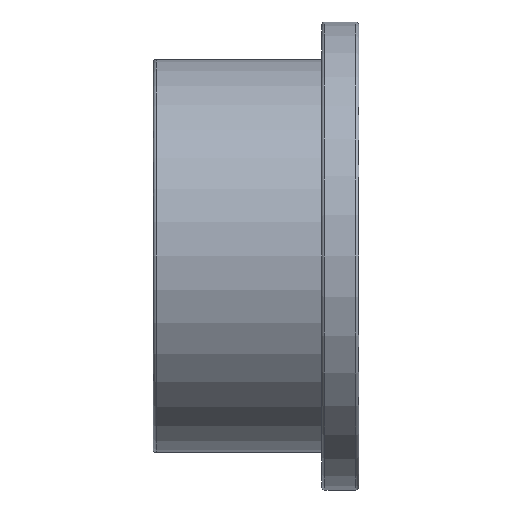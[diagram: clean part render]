
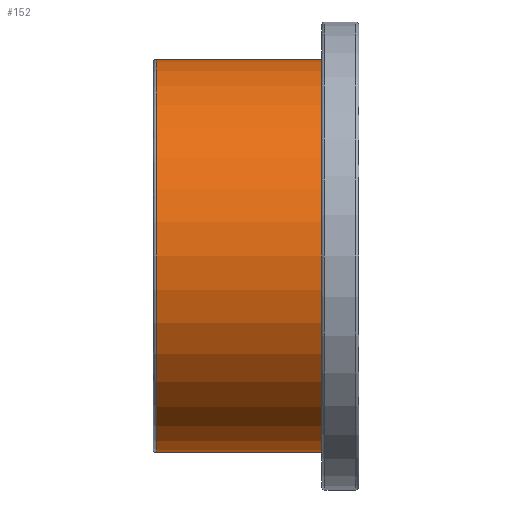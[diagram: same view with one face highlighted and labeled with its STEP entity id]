
A CAD part, front view. The second image highlights one B-rep face of the part: STEP entity #152.
In plain terms, the highlighted cylindrical face has radius 63 mm (diameter 126 mm), a full revolution.
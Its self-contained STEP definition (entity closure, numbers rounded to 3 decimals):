
#21=CYLINDRICAL_SURFACE('',#176,63.);
#30=FACE_BOUND('',#64,.T.);
#43=FACE_OUTER_BOUND('',#63,.T.);
#63=EDGE_LOOP('',(#128));
#64=EDGE_LOOP('',(#129));
#78=CIRCLE('',#166,63.);
#83=CIRCLE('',#175,63.);
#91=VERTEX_POINT('',#250);
#96=VERTEX_POINT('',#264);
#104=EDGE_CURVE('',#91,#91,#78,.T.);
#109=EDGE_CURVE('',#96,#96,#83,.T.);
#128=ORIENTED_EDGE('',*,*,#104,.T.);
#129=ORIENTED_EDGE('',*,*,#109,.F.);
#152=ADVANCED_FACE('',(#43,#30),#21,.T.);
#166=AXIS2_PLACEMENT_3D('',#251,#200,#201);
#175=AXIS2_PLACEMENT_3D('',#265,#218,#219);
#176=AXIS2_PLACEMENT_3D('',#266,#220,#221);
#200=DIRECTION('center_axis',(-1.,0.,0.));
#201=DIRECTION('ref_axis',(0.,0.,1.));
#218=DIRECTION('center_axis',(-1.,0.,0.));
#219=DIRECTION('ref_axis',(0.,1.,0.));
#220=DIRECTION('center_axis',(-1.,0.,0.));
#221=DIRECTION('ref_axis',(0.,-1.,0.));
#250=CARTESIAN_POINT('',(54.,-63.,0.));
#251=CARTESIAN_POINT('Origin',(54.,0.,0.));
#264=CARTESIAN_POINT('',(1.1,-63.,0.));
#265=CARTESIAN_POINT('Origin',(1.1,0.,0.));
#266=CARTESIAN_POINT('Origin',(27.,0.,0.));
